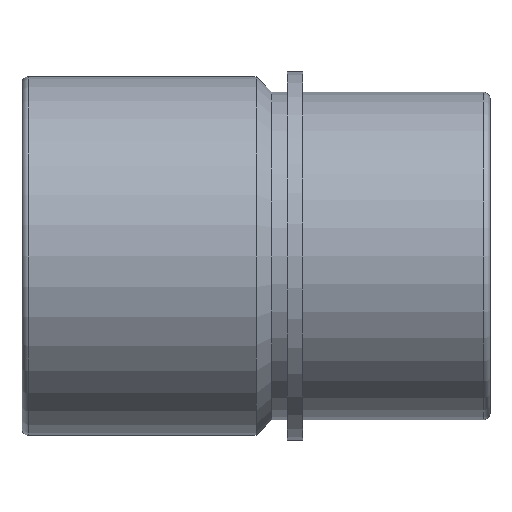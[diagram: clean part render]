
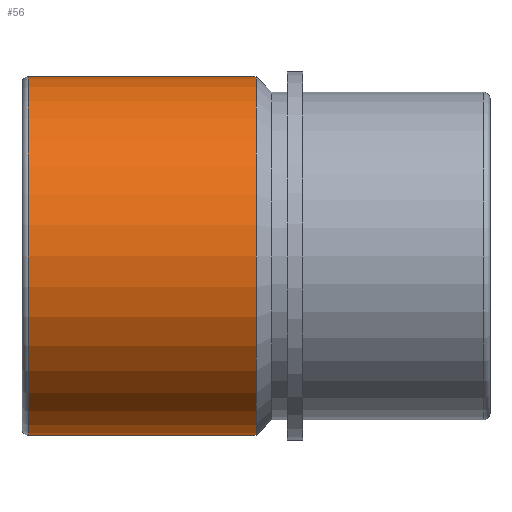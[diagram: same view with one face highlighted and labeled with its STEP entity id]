
A CAD part, front view. The second image highlights one B-rep face of the part: STEP entity #56.
In plain terms, the highlighted cylindrical face has radius 57.5 mm (diameter 115 mm), a full revolution.
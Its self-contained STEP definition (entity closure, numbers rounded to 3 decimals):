
#56 = ADVANCED_FACE( '', ( #119, #120 ), #121, .T. );
#119 = FACE_OUTER_BOUND( '', #182, .T. );
#120 = FACE_OUTER_BOUND( '', #183, .T. );
#121 = CYLINDRICAL_SURFACE( '', #184, 57.5 );
#182 = EDGE_LOOP( '', ( #257 ) );
#183 = EDGE_LOOP( '', ( #258 ) );
#184 = AXIS2_PLACEMENT_3D( '', #259, #260, #261 );
#257 = ORIENTED_EDGE( '', *, *, #298, .T. );
#258 = ORIENTED_EDGE( '', *, *, #308, .F. );
#259 = CARTESIAN_POINT( '', ( 60., 0., 0. ) );
#260 = DIRECTION( '', ( -1., 0., 0. ) );
#261 = DIRECTION( '', ( 0., 0., -1. ) );
#298 = EDGE_CURVE( '', #333, #333, #334, .T. );
#308 = EDGE_CURVE( '', #348, #348, #349, .T. );
#333 = VERTEX_POINT( '', #375 );
#334 = CIRCLE( '', #376, 57.5 );
#348 = VERTEX_POINT( '', #390 );
#349 = CIRCLE( '', #391, 57.5 );
#375 = CARTESIAN_POINT( '', ( -88., 0., -57.5 ) );
#376 = AXIS2_PLACEMENT_3D( '', #419, #420, #421 );
#390 = CARTESIAN_POINT( '', ( -15., 0., -57.5 ) );
#391 = AXIS2_PLACEMENT_3D( '', #434, #435, #436 );
#419 = CARTESIAN_POINT( '', ( -88., 0., 0. ) );
#420 = DIRECTION( '', ( 1., 0., 0. ) );
#421 = DIRECTION( '', ( 0., 0., -1. ) );
#434 = CARTESIAN_POINT( '', ( -15., 0., 0. ) );
#435 = DIRECTION( '', ( 1., 0., 0. ) );
#436 = DIRECTION( '', ( 0., 0., -1. ) );
